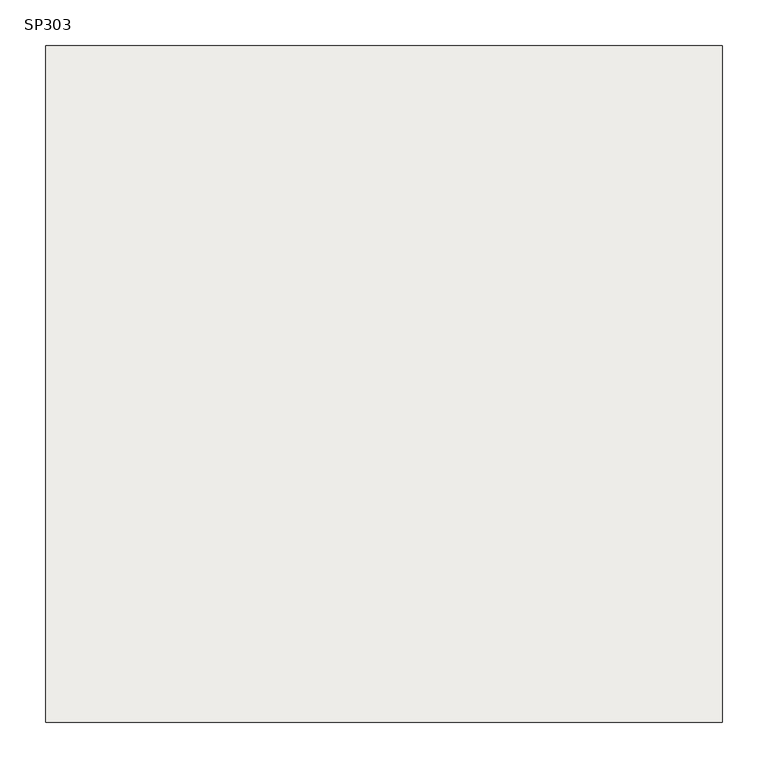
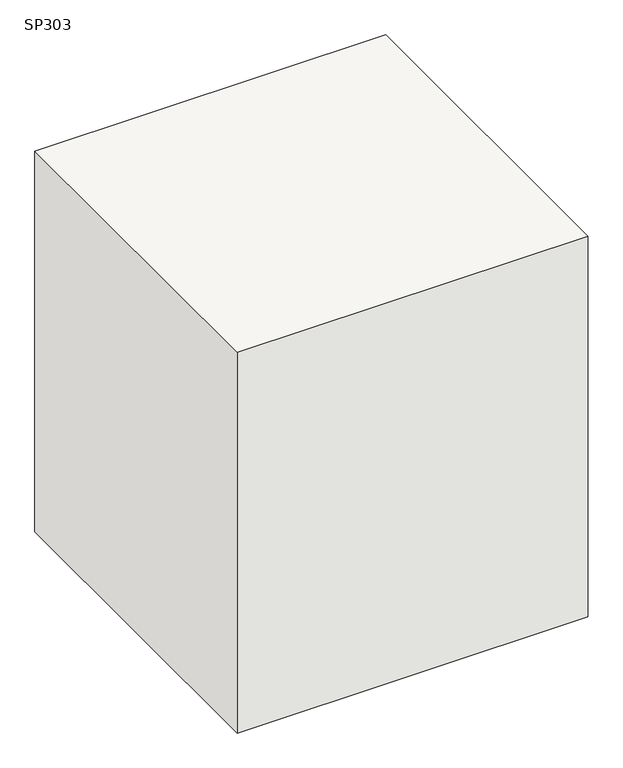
"""IFC4 building model written with IfcOpenShell, lengths in millimetres: slab geometry, 柱形_SP : SP303."""

from ifc_helpers import new_model, si_unit, frame, origin, place, context, project, spatial, polyline, outline, extrude, source, transform, mapped, element, save


def sp303_aef286e8(model_context):
    return source(origin(), model_context, "Body", "SweptSolid", [
        extrude(outline(polyline([(370.0, 370.0), (370.0, -370.0), (-370.0, -370.0), (-370.0, 370.0), (370.0, 370.0)])), frame((0.0, 0.0, -850.0), z_axis=(0.0, 0.0, 1.0), x_axis=(1.0, 0.0, 0.0)), (0.0, 0.0, 1.0), 850.0),
    ])


if __name__ == "__main__":
    model = new_model("IFC4")
    model_context = context("Model", 3, world=origin())
    ifc_project = project(units=[si_unit("LENGTHUNIT", "METRE", prefix="MILLI")], contexts=[model_context])
    site = spatial("IfcSite", under=ifc_project)
    building = spatial("IfcBuilding", under=site)
    placement = place(None, origin())
    sp303_shape = sp303_aef286e8(model_context)
    element("IfcSlab", 1, ObjectType="柱形_SP : SP303", at=placement, inside=building, context=model_context, shape_type="MappedRepresentation", body=[
        mapped(sp303_shape, transform((0.0, 0.0, 0.0), x_axis=(1.0, 0.0, 0.0), y_axis=(0.0, 1.0, 0.0), z_axis=(0.0, 0.0, 1.0))),
    ])
    save(model, "model.ifc")
